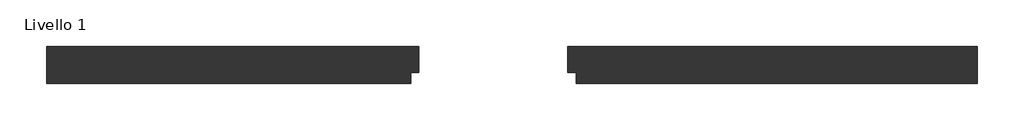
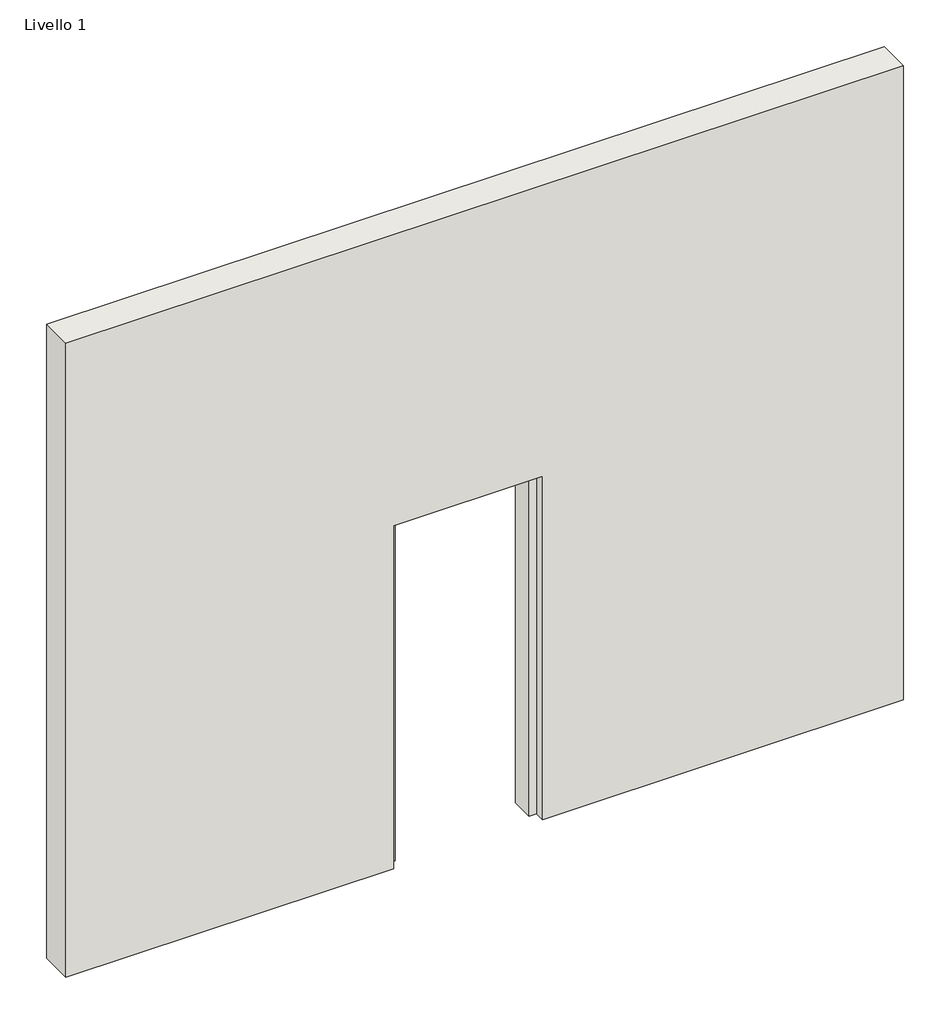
# One storey, incomplete: 1 wall.
"""IFC4 building model written with IfcOpenShell, lengths in millimetres."""

from ifc_helpers import new_model, si_unit, origin, place, context, project, spatial, faceted_brep, element, save

model = new_model("IFC4")

# Units and contexts
model_context = context("Model", 3, world=origin())
ifc_project = project(units=[si_unit("LENGTHUNIT", "METRE", prefix="MILLI")], contexts=[model_context])

# Site, building, storey
site = spatial("IfcSite", under=ifc_project)
building = spatial("IfcBuilding", under=site)
storey = spatial("IfcBuildingStorey", under=building, Name="Livello 1", Elevation=0.0)

# Wall
placement = place(None, origin())
element("IfcWall", 1, ObjectType="Muro 1", at=placement, inside=storey, context=model_context, shape_type="Brep", body=[
    faceted_brep([(11759.3167702, 3056.8322981, 0.0), (11759.3167702, 3056.8322981, 4000.0), (6759.3167702, 3056.8322981, 4000.0), (6759.3167702, 3056.8322981, 0.0), (8714.3167702, 3056.8322981, 0.0), (8714.3167702, 3056.8322981, 2165.0), (9604.3167702, 3056.8322981, 2165.0), (9604.3167702, 3056.8322981, 0.0), (11759.3167702, 3256.8322981, 4000.0), (11759.3167702, 3256.8322981, 0.0), (9559.3167702, 3256.8322981, 0.0), (9559.3167702, 3256.8322981, 2120.0), (8759.3167702, 3256.8322981, 2120.0), (8759.3167702, 3256.8322981, 0.0), (6759.3167702, 3256.8322981, 0.0), (6759.3167702, 3256.8322981, 4000.0), (9604.3167702, 3116.8322981, 0.0), (9559.3167702, 3116.8322981, 0.0), (8759.3167702, 3116.8322981, 0.0), (8714.3167702, 3116.8322981, 0.0), (9604.3167702, 3116.8322981, 2165.0), (8714.3167702, 3116.8322981, 2165.0), (8759.3167702, 3116.8322981, 2120.0), (9559.3167702, 3116.8322981, 2120.0)], [[[0, 1, 2, 3, 4, 5, 6, 7]], [[8, 9, 10, 11, 12, 13, 14, 15]], [[9, 0, 7, 16, 17, 10]], [[3, 14, 13, 18, 19, 4]], [[1, 0, 9, 8]], [[2, 1, 8, 15]], [[3, 2, 15, 14]], [[20, 21, 19, 18, 22, 23, 17, 16]], [[21, 20, 6, 5]], [[19, 21, 5, 4]], [[20, 16, 7, 6]], [[23, 22, 12, 11]], [[22, 18, 13, 12]], [[17, 23, 11, 10]]]),
])

save(model, "model.ifc")
